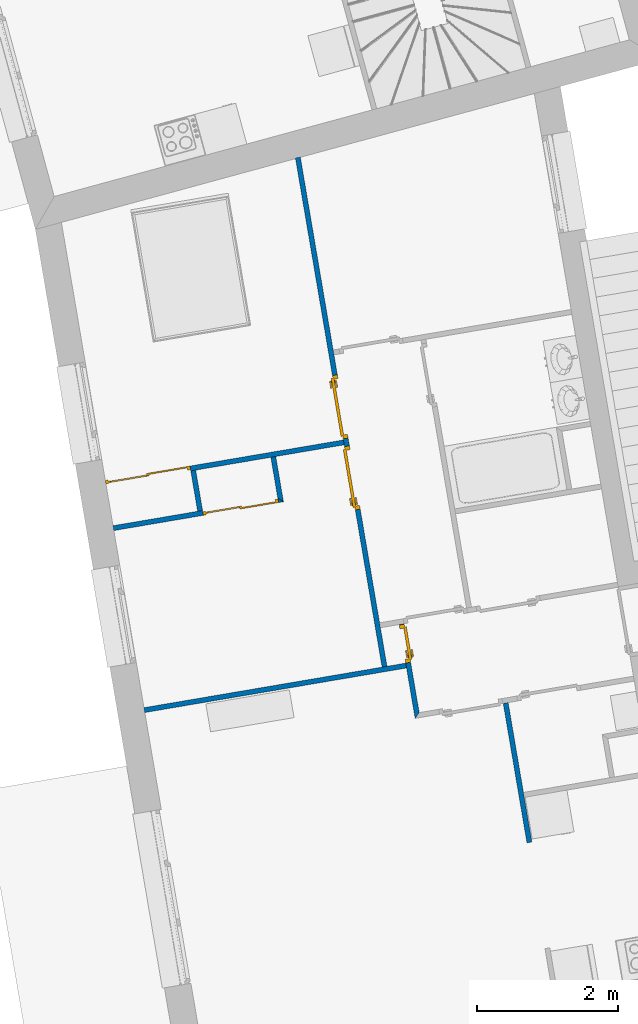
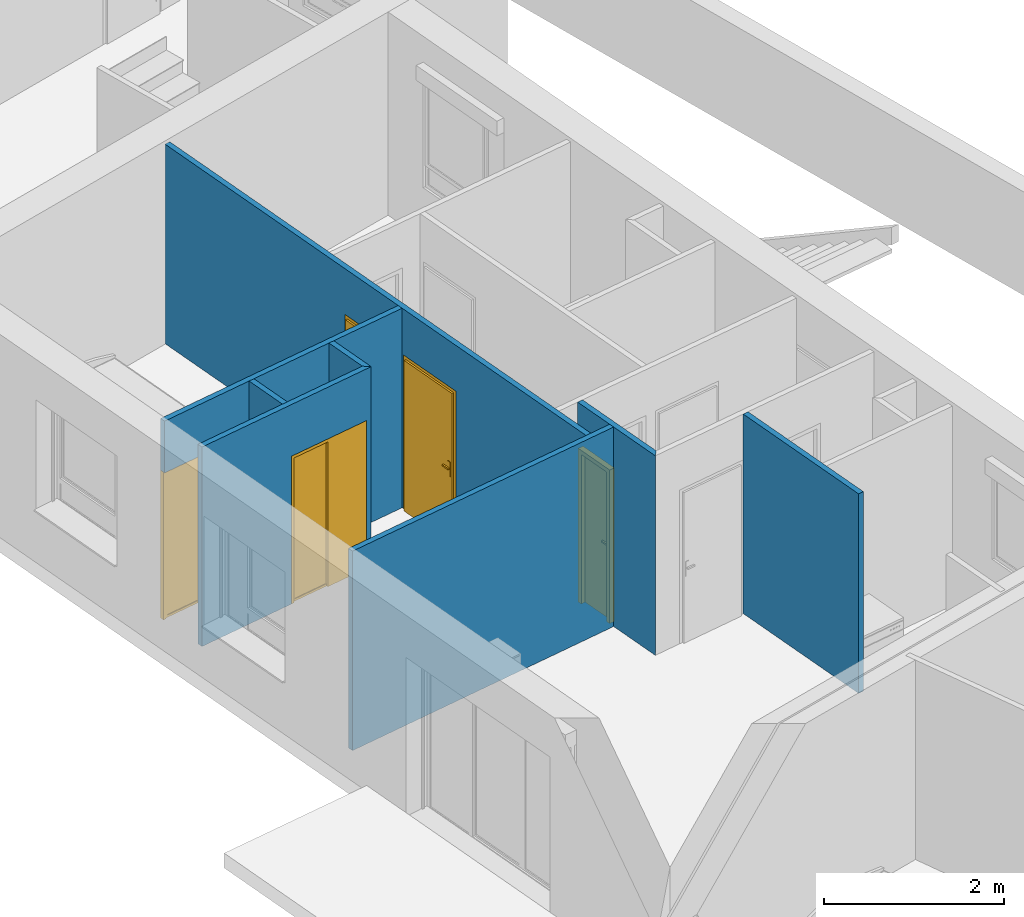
# One storey, part 87 of 195: 8 walls, 5 doors, 5 openings.
"""IFC2X3 building model written with IfcOpenShell, lengths in metres."""

from ifc_helpers import new_model, entity, si_unit, converted_unit, derived_unit, money_unit, direction, frame, origin_with_axes, origin_2d_with_axis, place, context, subcontext, project, spatial, polyline, rectangle, outline, extrude, open_shell, faceted_brep, surface_model, source, transform, mapped, material, layer, layer_set, layer_usage, type_object, element, fill, save


model = new_model("IFC2X3")

# Units and contexts
model_context = context("Model", 3, precision=1e-05, world=origin_with_axes(), true_north=direction((0.0, 1.0)))
body_context = subcontext(model_context, "Body", "Model", "MODEL_VIEW")
ifc_project = project(units=[si_unit("LENGTHUNIT", "METRE"), si_unit("AREAUNIT", "SQUARE_METRE"), si_unit("VOLUMEUNIT", "CUBIC_METRE"), converted_unit("PLANEANGLEUNIT", "DEGREE", entity("IfcPlaneAngleMeasure", 0.0174532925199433), si_unit("PLANEANGLEUNIT", "RADIAN"), dimensions=[0, 0, 0, 0, 0, 0, 0]), money_unit("CHF"), converted_unit("TIMEUNIT", "Year", entity("IfcTimeMeasure", 31557600.0), si_unit("TIMEUNIT", "SECOND"), dimensions=[0, 0, 1, 0, 0, 0, 0]), si_unit("MASSUNIT", "GRAM", prefix="KILO"), si_unit("THERMODYNAMICTEMPERATUREUNIT", "DEGREE_CELSIUS"), si_unit("LUMINOUSINTENSITYUNIT", "LUMEN"), si_unit("ENERGYUNIT", "JOULE", prefix="MEGA"), derived_unit("THERMALCONDUCTANCEUNIT", [(si_unit("POWERUNIT", "WATT"), 1), (si_unit("LENGTHUNIT", "METRE"), -1), (si_unit("THERMODYNAMICTEMPERATUREUNIT", "KELVIN"), -1)]), derived_unit("SPECIFICHEATCAPACITYUNIT", [(si_unit("ENERGYUNIT", "JOULE"), 1), (si_unit("MASSUNIT", "GRAM", prefix="KILO"), -1), (si_unit("THERMODYNAMICTEMPERATUREUNIT", "KELVIN"), -1)]), derived_unit("MASSDENSITYUNIT", [(si_unit("MASSUNIT", "GRAM", prefix="KILO"), 1), (si_unit("VOLUMEUNIT", "CUBIC_METRE"), -1)])], contexts=[model_context])

# Site, building, storey
site_placement = place(None, origin_with_axes())
site = spatial("IfcSite", under=ifc_project, at=site_placement, Name="Site", CompositionType="ELEMENT")
building_placement = place(site_placement, origin_with_axes())
building = spatial("IfcBuilding", under=site, at=building_placement, Name="Bâtiment", CompositionType="ELEMENT")
storey_placement = place(building_placement, origin_with_axes())
storey = spatial("IfcBuildingStorey", under=building, at=storey_placement, Name="rdc", CompositionType="ELEMENT", Elevation=0.0)

# Walls
ifc_material = material(Name="Hachure solide 268963992")
ifc_layer = layer(ifc_material, 0.07, ventilated="UNKNOWN")
ifc_layer_set = layer_set([ifc_layer], Name="Cloison 70 0826278243")
ifc_layer_usage_1 = layer_usage(ifc_layer_set, "AXIS2", "POSITIVE", 0.0)
wall_type = type_object("IfcWallType", Name="Cloison 70 0826278243 70", PredefinedType="NOTDEFINED")
wall_1_placement = place(storey_placement, frame((9585.078171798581, -1029.185577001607, 57.7), z_axis=(0.0, 0.0, 1.0), x_axis=(-0.985829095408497, -0.1677527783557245, 0.0)))
element("IfcWallStandardCase", 1, at=wall_1_placement, inside=storey, type_object=wall_type, material=ifc_layer_usage_1, Name="Mur-149", context=body_context, shape_type="SweptSolid", body=[
    extrude(outline(polyline([(0.0, 0.0), (3.761145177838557, 0.0), (3.761145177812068, 0.06999999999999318), (-1.001581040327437e-10, 0.0700000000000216), (0.0, 0.0)])), origin_with_axes(), (0.0, 0.0, 1.0), 2.7),
])
ifc_layer_usage_2 = layer_usage(ifc_layer_set, "AXIS2", "NEGATIVE", 0.0)
wall_2_placement = place(storey_placement, frame((9582.142737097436, -1027.104185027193, 57.7), z_axis=(0.0, 0.0, 1.0), x_axis=(-0.1677527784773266, 0.9858290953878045, 0.0)))
element("IfcWallStandardCase", 2, at=wall_2_placement, inside=storey, type_object=wall_type, material=ifc_layer_usage_2, Name="Mur-149", context=body_context, shape_type="SweptSolid", body=[
    extrude(outline(polyline([(0.0700000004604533, -0.06999999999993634), (0.6499928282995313, -0.07000000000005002), (0.6499928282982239, 0.0), (0.07000000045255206, 0.0), (0.0700000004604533, -0.06999999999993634)])), origin_with_axes(), (0.0, 0.0, 1.0), 2.7),
])

# Wall, opening, door
ifc_layer_usage_3 = layer_usage(ifc_layer_set, "AXIS2", "NEGATIVE", 0.0)
wall_3_placement = place(storey_placement, frame((9584.276142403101, -1026.081819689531, 57.7), z_axis=(0.0, 0.0, 1.0), x_axis=(-0.9858290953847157, -0.1677527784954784, 0.0)))
wall_3 = element("IfcWallStandardCase", 3, at=wall_3_placement, inside=storey, type_object=wall_type, material=ifc_layer_usage_3, Name="Mur-149", context=body_context, shape_type="SweptSolid", body=[
    extrude(outline(polyline([(0.07000000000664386, -0.06999999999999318), (3.491145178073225, -0.06999999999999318), (3.491145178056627, 0.0), (0.06999999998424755, 0.0), (0.07000000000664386, -0.06999999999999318)])), origin_with_axes(), (0.0, 0.0, 1.0), 2.7),
])
opening_1_placement = place(wall_3_placement, frame((2.882911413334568, 0.0, 0.0), z_axis=(0.0, 0.0, 1.0), x_axis=(1.0, 0.0, 0.0)))
opening_1 = element("IfcOpeningElement", 4, at=opening_1_placement, cuts=wall_3, Name="Por-358", context=body_context, shape_type="SweptSolid", body=[
    extrude(rectangle(XDim=1.216467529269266, YDim=2.0, at=origin_2d_with_axis()), frame((0.0, -0.0700000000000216, 1.0), z_axis=(0.0, 1.0, 0.0), x_axis=(1.0, 0.0, 0.0)), (0.0, 0.0, -1.0), 0.07),
    extrude(rectangle(XDim=1.216467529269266, YDim=2.0, at=origin_2d_with_axis()), frame((0.0, -0.07000000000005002, 1.0), z_axis=(0.0, -1.0, 0.0), x_axis=(1.0, 0.0, 0.0)), (0.0, 0.0, -1.0), 0.07),
])
door_style_1 = type_object("IfcDoorStyle", ConstructionType="NOTDEFINED", OperationType="NOTDEFINED", ParameterTakesPrecedence=False, Sizeable=False)
shared_shape_1 = source(origin_with_axes(), body_context, "Body", "SurfaceModel", [
    faceted_brep([(0.6082337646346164, 0.0, 0.0), (0.5682337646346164, 0.0, 0.0), (0.5682337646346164, 0.0, 1.96), (-0.5682337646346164, 0.0, 1.96), (-0.5682337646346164, 0.0, 0.0), (-0.6082337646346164, 0.0, 0.0), (-0.6082337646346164, 0.0, 2.0), (0.6082337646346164, 0.0, 2.0), (0.6082337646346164, -0.05, 0.0), (0.5682337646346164, -0.05, 0.0), (0.5682337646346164, -0.04000000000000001, 0.0), (0.5682337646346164, -0.04000000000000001, 1.96), (-0.5682337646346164, -0.03999999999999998, 1.96), (-0.5682337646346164, -0.03999999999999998, 0.0), (-0.5682337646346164, -0.04999999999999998, 0.0), (-0.6082337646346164, -0.04999999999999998, 0.0), (-0.6082337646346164, -0.04999999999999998, 2.0), (0.6082337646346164, -0.05, 2.0), (-0.5682337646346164, -0.04999999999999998, 1.96), (0.5682337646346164, -0.05, 1.96)], [[[0, 1, 2, 3, 4, 5, 6, 7]], [[0, 8, 9, 10, 1]], [[1, 10, 11, 2]], [[2, 11, 12, 3]], [[3, 12, 13, 4]], [[5, 4, 13, 14, 15]], [[16, 6, 5, 15]], [[17, 7, 6, 16]], [[8, 0, 7, 17]], [[9, 8, 17, 16, 15, 14, 18, 19]], [[10, 9, 19, 11]], [[11, 19, 18, 12]], [[12, 18, 14, 13]]]),
    faceted_brep([(-0.5682337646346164, -0.01999999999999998, 0.0), (0.01500000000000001, -0.02, 0.0), (0.01500000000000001, -0.03999999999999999, 0.0), (-0.5682337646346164, -0.03999999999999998, 0.0), (-0.5682337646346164, -0.01999999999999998, 1.96), (0.01500000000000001, -0.02, 1.96), (-0.5382337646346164, -0.01999999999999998, 0.03), (-0.0149999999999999, -0.02, 0.03), (-0.0149999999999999, -0.02, 1.93), (-0.5382337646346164, -0.01999999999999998, 1.93), (0.01500000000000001, -0.03999999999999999, 1.96), (-0.5682337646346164, -0.03999999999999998, 1.96), (-0.5382337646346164, -0.03999999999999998, 0.03), (-0.5382337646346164, -0.03999999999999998, 1.93), (-0.0149999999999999, -0.03999999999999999, 1.93), (-0.0149999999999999, -0.03999999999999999, 0.03)], [[[0, 1, 2, 3]], [[0, 4, 5, 1], [6, 7, 8, 9]], [[1, 5, 10, 2]], [[3, 2, 10, 11], [12, 13, 14, 15]], [[4, 0, 3, 11]], [[5, 4, 11, 10]], [[7, 6, 12, 15]], [[8, 7, 15, 14]], [[9, 8, 14, 13]], [[6, 9, 13, 12]]]),
    surface_model("IfcShellBasedSurfaceModel", [(-0.5382337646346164, -0.02999999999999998, 0.03), (-0.0149999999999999, -0.02999999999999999, 0.03), (-0.0149999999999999, -0.02999999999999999, 1.93), (-0.5382337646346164, -0.02999999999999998, 1.93)], [open_shell([[[0, 1, 2, 3]]])]),
    faceted_brep([(-0.01500000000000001, 0.0, 0.0), (0.5682337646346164, 0.0, 0.0), (0.5682337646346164, -0.02000000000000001, 0.0), (-0.01500000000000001, -0.02, 0.0), (-0.01500000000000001, 0.0, 1.96), (0.5682337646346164, 0.0, 1.96), (0.5682337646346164, -0.02000000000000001, 1.96), (-0.01500000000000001, -0.02, 1.96)], [[[0, 1, 2, 3]], [[0, 4, 5, 1]], [[1, 5, 6, 2]], [[3, 2, 6, 7]], [[4, 0, 3, 7]], [[5, 4, 7, 6]]]),
])
door_1_placement = place(opening_1_placement, frame((0.6082337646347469, 0.0, 0.0), z_axis=(0.0, 0.0, 1.0), x_axis=(-1.0, 0.0, 0.0)))
door_1 = element("IfcDoor", 5, at=door_1_placement, inside=storey, type_object=door_style_1, Name="Por-358", OverallHeight=2.0, OverallWidth=1.21647, context=body_context, shape_type="MappedRepresentation", body=[
    mapped(shared_shape_1, transform((0.6082337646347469, 0.06999999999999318, 0.0))),
])
fill(opening_1, door_1)

# Wall, openings, doors
ifc_layer_usage_4 = layer_usage(ifc_layer_set, "AXIS2", "NEGATIVE", 0.0)
wall_4_placement = place(storey_placement, frame((9583.584749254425, -1022.018724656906, 57.7), z_axis=(0.0, 0.0, 1.0), x_axis=(0.1677527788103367, -0.9858290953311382, 0.0)))
wall_4 = element("IfcWallStandardCase", 6, at=wall_4_placement, inside=storey, type_object=wall_type, material=ifc_layer_usage_4, Name="Mur-149", context=body_context, shape_type="SweptSolid", body=[
    extrude(outline(polyline([(0.0, -0.07000000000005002), (7.315817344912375, -0.07000000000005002), (7.315817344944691, 0.0), (0.0, 0.0), (0.0, -0.07000000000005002)])), origin_with_axes(), (0.0, 0.0, 1.0), 2.7),
])
opening_2_placement = place(wall_4_placement, frame((4.602404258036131, 0.0, 0.0), z_axis=(0.0, 0.0, 1.0), x_axis=(1.0, 0.0, 0.0)))
opening_2 = element("IfcOpeningElement", 7, at=opening_2_placement, cuts=wall_4, Name="Por-302", context=body_context, shape_type="SweptSolid", body=[
    extrude(rectangle(XDim=0.9099999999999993, YDim=2.079999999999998, at=origin_2d_with_axis()), frame((0.0, 0.06999999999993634, 1.039999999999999), z_axis=(0.0, -1.0, 0.0), x_axis=(-1.0, 0.0, 0.0)), (0.0, 0.0, 1.0), 0.14),
])
opening_3_placement = place(wall_4_placement, frame((3.58120269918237, 0.0, 0.0), z_axis=(0.0, 0.0, 1.0), x_axis=(1.0, 0.0, 0.0)))
opening_3 = element("IfcOpeningElement", 8, at=opening_3_placement, cuts=wall_4, Name="Por-301", context=body_context, shape_type="SweptSolid", body=[
    extrude(rectangle(XDim=0.9099999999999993, YDim=2.079999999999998, at=origin_2d_with_axis()), frame((0.0, 0.07000000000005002, 1.039999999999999), z_axis=(0.0, 1.0, 0.0), x_axis=(1.0, 0.0, 0.0)), (0.0, 0.0, -1.0), 0.14),
])
door_style_2 = type_object("IfcDoorStyle", Name="Porte_1v", ConstructionType="NOTDEFINED", OperationType="NOTDEFINED", ParameterTakesPrecedence=False, Sizeable=False)
shared_shape_2 = source(origin_with_axes(), body_context, "Body", "Brep", [
    faceted_brep([(0.455, 0.0, 0.0), (0.415, 0.0, 0.0), (0.415, 0.0, 2.04), (-0.415, 0.0, 2.04), (-0.415, 0.0, 0.0), (-0.455, 0.0, 0.0), (-0.455, 0.0, 2.08), (0.455, 0.0, 2.08), (0.455, -0.07, 0.0), (0.4, -0.07, 0.0), (0.4, -0.015, 0.0), (0.415, -0.015, 0.0), (0.415, -0.015, 2.04), (-0.415, -0.015, 2.04), (-0.415, -0.015, 0.0), (-0.4, -0.015, 0.0), (-0.4, -0.07, 0.0), (-0.455, -0.07, 0.0), (-0.455, -0.07, 2.08), (0.455, -0.07, 2.08), (-0.4, -0.07, 2.025), (0.4, -0.07, 2.025), (0.4, -0.015, 2.025), (-0.4, -0.015, 2.025)], [[[0, 1, 2, 3, 4, 5, 6, 7]], [[0, 8, 9, 10, 11, 1]], [[1, 11, 12, 2]], [[2, 12, 13, 3]], [[3, 13, 14, 4]], [[5, 4, 14, 15, 16, 17]], [[18, 6, 5, 17]], [[19, 7, 6, 18]], [[8, 0, 7, 19]], [[9, 8, 19, 18, 17, 16, 20, 21]], [[10, 9, 21, 22]], [[11, 10, 22, 23, 15, 14, 13, 12]], [[23, 20, 16, 15]], [[22, 21, 20, 23]]]),
    faceted_brep([(-0.35, -0.015, 0.9), (-0.39, -0.015, 0.9), (-0.39, -0.015, 1.1), (-0.35, -0.015, 1.1), (-0.35, -0.025, 0.9), (-0.39, -0.025, 0.9), (-0.39, -0.025, 1.1), (-0.35, -0.025, 1.1)], [[[0, 1, 2, 3]], [[1, 0, 4, 5]], [[2, 1, 5, 6]], [[3, 2, 6, 7]], [[0, 3, 7, 4]], [[5, 4, 7, 6]]]),
    faceted_brep([(-0.28, -0.025, 1.0), (-0.38, -0.025, 1.0), (-0.38, -0.025, 1.02), (-0.28, -0.025, 1.02), (-0.28, -0.045, 1.0), (-0.38, -0.045, 1.0), (-0.38, -0.045, 1.02), (-0.28, -0.045, 1.02)], [[[0, 1, 2, 3]], [[1, 0, 4, 5]], [[2, 1, 5, 6]], [[3, 2, 6, 7]], [[0, 3, 7, 4]], [[5, 4, 7, 6]]]),
    faceted_brep([(-0.35, 0.035, 0.9), (-0.39, 0.035, 0.9), (-0.39, 0.035, 1.1), (-0.35, 0.035, 1.1), (-0.35, 0.025, 0.9), (-0.39, 0.025, 0.9), (-0.39, 0.025, 1.1), (-0.35, 0.025, 1.1)], [[[0, 1, 2, 3]], [[1, 0, 4, 5]], [[2, 1, 5, 6]], [[3, 2, 6, 7]], [[0, 3, 7, 4]], [[5, 4, 7, 6]]]),
    faceted_brep([(-0.28, 0.05500000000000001, 1.0), (-0.38, 0.05500000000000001, 1.0), (-0.38, 0.05500000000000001, 1.02), (-0.28, 0.05500000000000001, 1.02), (-0.28, 0.035, 1.0), (-0.38, 0.035, 1.0), (-0.38, 0.035, 1.02), (-0.28, 0.035, 1.02)], [[[0, 1, 2, 3]], [[1, 0, 4, 5]], [[2, 1, 5, 6]], [[3, 2, 6, 7]], [[0, 3, 7, 4]], [[5, 4, 7, 6]]]),
    faceted_brep([(-0.415, 0.025, 0.0), (0.415, 0.025, 0.0), (0.415, -0.015, 0.0), (-0.415, -0.015, 0.0), (-0.415, 0.025, 2.04), (0.415, 0.025, 2.04), (0.415, -0.015, 2.04), (-0.415, -0.015, 2.04)], [[[0, 1, 2, 3]], [[0, 4, 5, 1]], [[1, 5, 6, 2]], [[3, 2, 6, 7]], [[4, 0, 3, 7]], [[5, 4, 7, 6]]]),
])
door_2_placement = place(opening_2_placement, frame((0.4150000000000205, 0.0, 0.0), z_axis=(0.0, 0.0, 1.0), x_axis=(-1.0, 0.0, 0.0)))
door_2 = element("IfcDoor", 9, at=door_2_placement, inside=storey, type_object=door_style_2, Name="Por-302", OverallHeight=2.04, OverallWidth=0.83, context=body_context, shape_type="MappedRepresentation", body=[
    mapped(shared_shape_2, transform((0.4149999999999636, 0.06999999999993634, 0.0))),
])
fill(opening_2, door_2)
shared_shape_3 = source(origin_with_axes(), body_context, "Body", "Brep", [
    faceted_brep([(-0.455, 0.0, 0.0), (-0.455, 0.0, 2.08), (0.455, 0.0, 2.08), (0.455, 0.0, 0.0), (0.415, 0.0, 0.0), (0.415, 0.0, 2.04), (-0.415, 0.0, 2.04), (-0.415, 0.0, 0.0), (-0.455, -0.07, 0.0), (-0.455, -0.07, 2.08), (0.455, -0.07, 2.08), (0.455, -0.07, 0.0), (0.4, -0.07, 0.0), (0.4, -0.015, 0.0), (0.415, -0.015, 0.0), (0.415, -0.015, 2.04), (-0.415, -0.015, 2.04), (-0.415, -0.015, 0.0), (-0.4, -0.015, 0.0), (-0.4, -0.07, 0.0), (-0.4, -0.07, 2.025), (0.4, -0.07, 2.025), (0.4, -0.015, 2.025), (-0.4, -0.015, 2.025)], [[[0, 1, 2, 3, 4, 5, 6, 7]], [[8, 9, 1, 0]], [[9, 10, 2, 1]], [[10, 11, 3, 2]], [[3, 11, 12, 13, 14, 4]], [[5, 4, 14, 15]], [[6, 5, 15, 16]], [[7, 6, 16, 17]], [[0, 7, 17, 18, 19, 8]], [[19, 20, 21, 12, 11, 10, 9, 8]], [[22, 13, 12, 21]], [[17, 16, 15, 14, 13, 22, 23, 18]], [[18, 23, 20, 19]], [[23, 22, 21, 20]]]),
    faceted_brep([(0.35, -0.015, 0.9), (0.35, -0.015, 1.1), (0.39, -0.015, 1.1), (0.39, -0.015, 0.9), (0.35, -0.025, 0.9), (0.35, -0.025, 1.1), (0.39, -0.025, 1.1), (0.39, -0.025, 0.9)], [[[0, 1, 2, 3]], [[0, 4, 5, 1]], [[1, 5, 6, 2]], [[2, 6, 7, 3]], [[3, 7, 4, 0]], [[7, 6, 5, 4]]]),
    faceted_brep([(0.28, -0.025, 1.0), (0.28, -0.025, 1.02), (0.38, -0.025, 1.02), (0.38, -0.025, 1.0), (0.28, -0.045, 1.0), (0.28, -0.045, 1.02), (0.38, -0.045, 1.02), (0.38, -0.045, 1.0)], [[[0, 1, 2, 3]], [[0, 4, 5, 1]], [[1, 5, 6, 2]], [[2, 6, 7, 3]], [[3, 7, 4, 0]], [[7, 6, 5, 4]]]),
    faceted_brep([(0.35, 0.035, 0.9), (0.35, 0.035, 1.1), (0.39, 0.035, 1.1), (0.39, 0.035, 0.9), (0.35, 0.025, 0.9), (0.35, 0.025, 1.1), (0.39, 0.025, 1.1), (0.39, 0.025, 0.9)], [[[0, 1, 2, 3]], [[0, 4, 5, 1]], [[1, 5, 6, 2]], [[2, 6, 7, 3]], [[3, 7, 4, 0]], [[7, 6, 5, 4]]]),
    faceted_brep([(0.28, 0.05500000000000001, 1.0), (0.28, 0.05500000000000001, 1.02), (0.38, 0.05500000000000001, 1.02), (0.38, 0.05500000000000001, 1.0), (0.28, 0.035, 1.0), (0.28, 0.035, 1.02), (0.38, 0.035, 1.02), (0.38, 0.035, 1.0)], [[[0, 1, 2, 3]], [[0, 4, 5, 1]], [[1, 5, 6, 2]], [[2, 6, 7, 3]], [[3, 7, 4, 0]], [[7, 6, 5, 4]]]),
    faceted_brep([(0.415, 0.025, 0.0), (0.415, -0.015, 0.0), (-0.415, -0.015, 0.0), (-0.415, 0.025, 0.0), (0.415, 0.025, 2.04), (0.415, -0.015, 2.04), (-0.415, -0.015, 2.04), (-0.415, 0.025, 2.04)], [[[0, 1, 2, 3]], [[4, 5, 1, 0]], [[1, 5, 6, 2]], [[3, 2, 6, 7]], [[0, 3, 7, 4]], [[7, 6, 5, 4]]]),
])
door_3_placement = place(opening_3_placement, frame((0.4150000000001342, 0.0, 0.0), z_axis=(0.0, 0.0, 1.0), x_axis=(-1.0, 0.0, 0.0)))
door_3 = element("IfcDoor", 10, at=door_3_placement, inside=storey, type_object=door_style_2, Name="Por-301", OverallHeight=2.04, OverallWidth=0.83, context=body_context, shape_type="MappedRepresentation", body=[
    mapped(shared_shape_3, transform((0.4150000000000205, 0.07000000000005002, 0.0))),
])
fill(opening_3, door_3)

# Wall
ifc_layer_usage_5 = layer_usage(ifc_layer_set, "AXIS2", "NEGATIVE", 0.0)
wall_5_placement = place(storey_placement, frame((9583.276806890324, -1026.911206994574, 57.7), z_axis=(0.0, 0.0, 1.0), x_axis=(-0.1677527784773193, 0.9858290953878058, 0.0)))
element("IfcWallStandardCase", 11, at=wall_5_placement, inside=storey, type_object=wall_type, material=ifc_layer_usage_5, Name="Mur-149", context=body_context, shape_type="SweptSolid", body=[
    extrude(outline(polyline([(0.0, -0.07000000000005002), (0.6499928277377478, -0.07000000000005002), (0.6499928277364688, 0.0), (0.06999999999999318, 0.0), (0.0, -0.07000000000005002)])), origin_with_axes(), (0.0, 0.0, 1.0), 2.7),
])

# Wall, opening, door
ifc_layer_usage_6 = layer_usage(ifc_layer_set, "AXIS2", "NEGATIVE", 0.0)
wall_6_placement = place(storey_placement, frame((9583.276806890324, -1026.911206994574, 57.7), z_axis=(0.0, 0.0, 1.0), x_axis=(-0.9858290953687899, -0.1677527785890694, 0.0)))
wall_6 = element("IfcWallStandardCase", 12, at=wall_6_placement, inside=storey, type_object=wall_type, material=ifc_layer_usage_6, Name="Mur-149", context=body_context, shape_type="SweptSolid", body=[
    extrude(outline(polyline([(0.0, -0.06999999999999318), (2.366839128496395, -0.06999999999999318), (2.36683912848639, 0.0), (-0.07000000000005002, 0.0), (0.0, -0.06999999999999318)])), origin_with_axes(), (0.0, 0.0, 1.0), 2.7),
])
opening_4_placement = place(wall_6_placement, frame((0.5401857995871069, 0.0, 0.0), z_axis=(0.0, 0.0, 1.0), x_axis=(1.0, 0.0, 0.0)))
opening_4 = element("IfcOpeningElement", 13, at=opening_4_placement, cuts=wall_6, Name="Por-357", context=body_context, shape_type="SweptSolid", body=[
    extrude(rectangle(XDim=1.080371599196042, YDim=2.0, at=origin_2d_with_axis()), frame((0.0, 0.0, 1.0), z_axis=(0.0, -1.0, 0.0), x_axis=(1.0, 0.0, 0.0)), (0.0, 0.0, -1.0), 0.07),
    extrude(rectangle(XDim=1.080371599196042, YDim=2.0, at=origin_2d_with_axis()), frame((0.0, 0.0, 1.0), z_axis=(0.0, 1.0, 0.0), x_axis=(1.0, 0.0, 0.0)), (0.0, 0.0, -1.0), 0.07),
])
shared_shape_4 = source(origin_with_axes(), body_context, "Body", "SurfaceModel", [
    faceted_brep([(-0.5401857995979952, 0.0, 0.0), (-0.5401857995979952, 0.0, 2.0), (0.5401857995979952, 0.0, 2.0), (0.5401857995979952, 0.0, 0.0), (0.5001857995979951, 0.0, 0.0), (0.5001857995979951, 0.0, 1.96), (-0.5001857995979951, 0.0, 1.96), (-0.5001857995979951, 0.0, 0.0), (-0.5401857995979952, -0.05, 0.0), (-0.5401857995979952, -0.05, 2.0), (0.5401857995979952, -0.05, 2.0), (0.5401857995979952, -0.05, 0.0), (0.5001857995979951, -0.05, 0.0), (0.5001857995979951, -0.04, 0.0), (0.5001857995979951, -0.04, 1.96), (-0.5001857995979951, -0.04, 1.96), (-0.5001857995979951, -0.04, 0.0), (-0.5001857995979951, -0.05, 0.0), (-0.5001857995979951, -0.05, 1.96), (0.5001857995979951, -0.05, 1.96)], [[[0, 1, 2, 3, 4, 5, 6, 7]], [[8, 9, 1, 0]], [[9, 10, 2, 1]], [[10, 11, 3, 2]], [[3, 11, 12, 13, 4]], [[5, 4, 13, 14]], [[6, 5, 14, 15]], [[7, 6, 15, 16]], [[0, 7, 16, 17, 8]], [[17, 18, 19, 12, 11, 10, 9, 8]], [[14, 13, 12, 19]], [[15, 14, 19, 18]], [[16, 15, 18, 17]]]),
    faceted_brep([(0.5001857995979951, -0.02, 0.0), (0.5001857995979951, -0.04, 0.0), (-0.01500000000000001, -0.04, 0.0), (-0.01500000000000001, -0.02, 0.0), (0.5001857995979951, -0.02, 1.96), (0.5001857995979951, -0.04, 1.96), (-0.01500000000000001, -0.04, 1.96), (0.4701857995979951, -0.04, 0.03), (0.01500000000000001, -0.04, 0.03), (0.01500000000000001, -0.04, 1.93), (0.4701857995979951, -0.04, 1.93), (-0.01500000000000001, -0.02, 1.96), (0.4701857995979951, -0.02, 0.03), (0.4701857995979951, -0.02, 1.93), (0.01500000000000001, -0.02, 1.93), (0.01500000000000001, -0.02, 0.03)], [[[0, 1, 2, 3]], [[4, 5, 1, 0]], [[1, 5, 6, 2], [7, 8, 9, 10]], [[3, 2, 6, 11]], [[0, 3, 11, 4], [12, 13, 14, 15]], [[11, 6, 5, 4]], [[15, 8, 7, 12]], [[14, 9, 8, 15]], [[13, 10, 9, 14]], [[12, 7, 10, 13]]]),
    surface_model("IfcShellBasedSurfaceModel", [(0.4701857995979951, -0.03, 0.03), (0.4701857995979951, -0.03, 1.93), (0.01499999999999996, -0.03, 1.93), (0.01499999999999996, -0.03, 0.03)], [open_shell([[[0, 1, 2, 3]]])]),
    faceted_brep([(0.01500000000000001, 0.0, 0.0), (0.01500000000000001, -0.02, 0.0), (-0.5001857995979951, -0.02, 0.0), (-0.5001857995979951, 0.0, 0.0), (0.01500000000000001, 0.0, 1.96), (0.01500000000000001, -0.02, 1.96), (-0.5001857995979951, -0.02, 1.96), (-0.5001857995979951, 0.0, 1.96)], [[[0, 1, 2, 3]], [[4, 5, 1, 0]], [[1, 5, 6, 2]], [[3, 2, 6, 7]], [[0, 3, 7, 4]], [[7, 6, 5, 4]]]),
])
door_4_placement = place(opening_4_placement, frame((-0.5401857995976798, 0.0, 0.0), z_axis=(0.0, 0.0, 1.0), x_axis=(1.0, 0.0, 0.0)))
door_4 = element("IfcDoor", 14, at=door_4_placement, inside=storey, type_object=door_style_1, Name="Por-357", OverallHeight=2.0, OverallWidth=1.08037, context=body_context, shape_type="MappedRepresentation", body=[
    mapped(shared_shape_4, transform((0.5401857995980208, 0.0, 0.0))),
])
fill(opening_4, door_4)

# Wall
ifc_layer_usage_7 = layer_usage(ifc_layer_set, "AXIS2", "NEGATIVE", 0.0)
wall_7_placement = place(storey_placement, frame((9586.528077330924, -1029.743853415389, 57.7), z_axis=(0.0, 0.0, 1.0), x_axis=(0.1677527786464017, -0.9858290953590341, 0.0)))
element("IfcWallStandardCase", 15, at=wall_7_placement, inside=storey, type_object=wall_type, material=ifc_layer_usage_7, Name="Mur-149", context=body_context, shape_type="SweptSolid", body=[
    extrude(outline(polyline([(-1.003769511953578e-09, -0.06999999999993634), (2.003969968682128, -0.07000000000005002), (2.003969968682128, 0.0), (-9.982272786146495e-10, 0.0), (-1.003769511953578e-09, -0.06999999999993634)])), origin_with_axes(), (0.0, 0.0, 1.0), 2.7),
])

# Wall, opening, door
ifc_layer_usage_8 = layer_usage(ifc_layer_set, "AXIS2", "NEGATIVE", 0.0)
wall_8_placement = place(storey_placement, frame((9585.211298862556, -1029.967921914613, 57.7), z_axis=(0.0, 0.0, 1.0), x_axis=(-0.1677527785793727, 0.98582909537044, 0.0)))
wall_8 = element("IfcWallStandardCase", 16, at=wall_8_placement, inside=storey, type_object=wall_type, material=ifc_layer_usage_8, Name="Mur-149", context=body_context, shape_type="SweptSolid", body=[
    extrude(outline(polyline([(0.07000000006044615, -0.07000000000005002), (1.348501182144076, -0.07000000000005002), (1.348501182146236, 0.0), (0.0, 0.0), (0.07000000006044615, -0.07000000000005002)])), origin_with_axes(), (0.0, 0.0, 1.0), 2.7),
])
opening_5_placement = place(wall_8_placement, frame((1.067283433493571, 0.0, 0.0), z_axis=(0.0, 0.0, 1.0), x_axis=(1.0, 0.0, 0.0)))
opening_5 = element("IfcOpeningElement", 17, at=opening_5_placement, cuts=wall_8, Name="Por-320", context=body_context, shape_type="SweptSolid", body=[
    extrude(rectangle(XDim=0.547405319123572, YDim=2.079999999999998, at=origin_2d_with_axis()), frame((-2.722657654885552e-09, 0.07000000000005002, 1.039999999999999), z_axis=(0.0, 1.0, 0.0), x_axis=(1.0, 0.0, 0.0)), (0.0, 0.0, -1.0), 0.14),
])
shared_shape_5 = source(origin_with_axes(), body_context, "Body", "Brep", [
    faceted_brep([(-0.2737026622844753, 0.0, 0.0), (-0.2737026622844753, 0.0, 2.08), (0.2737026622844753, 0.0, 2.08), (0.2737026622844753, 0.0, 0.0), (0.2337026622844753, 0.0, 0.0), (0.2337026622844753, 0.0, 2.04), (-0.2337026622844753, 0.0, 2.04), (-0.2337026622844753, 0.0, 0.0), (-0.2737026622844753, -0.07, 0.0), (-0.2737026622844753, -0.07, 2.08), (0.2737026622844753, -0.07, 2.08), (0.2737026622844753, -0.07, 0.0), (0.2187026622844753, -0.07, 0.0), (0.2187026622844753, -0.015, 0.0), (0.2337026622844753, -0.015, 0.0), (0.2337026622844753, -0.015, 2.04), (-0.2337026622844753, -0.015, 2.04), (-0.2337026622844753, -0.015, 0.0), (-0.2187026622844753, -0.015, 0.0), (-0.2187026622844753, -0.07, 0.0), (-0.2187026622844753, -0.07, 2.025), (0.2187026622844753, -0.07, 2.025), (0.2187026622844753, -0.015, 2.025), (-0.2187026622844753, -0.015, 2.025)], [[[0, 1, 2, 3, 4, 5, 6, 7]], [[8, 9, 1, 0]], [[9, 10, 2, 1]], [[10, 11, 3, 2]], [[3, 11, 12, 13, 14, 4]], [[5, 4, 14, 15]], [[6, 5, 15, 16]], [[7, 6, 16, 17]], [[0, 7, 17, 18, 19, 8]], [[19, 20, 21, 12, 11, 10, 9, 8]], [[22, 13, 12, 21]], [[17, 16, 15, 14, 13, 22, 23, 18]], [[18, 23, 20, 19]], [[23, 22, 21, 20]]]),
    faceted_brep([(0.1687026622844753, -0.015, 0.9), (0.1687026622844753, -0.015, 1.1), (0.2087026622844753, -0.015, 1.1), (0.2087026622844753, -0.015, 0.9), (0.1687026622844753, -0.025, 0.9), (0.1687026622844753, -0.025, 1.1), (0.2087026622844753, -0.025, 1.1), (0.2087026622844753, -0.025, 0.9)], [[[0, 1, 2, 3]], [[0, 4, 5, 1]], [[1, 5, 6, 2]], [[2, 6, 7, 3]], [[3, 7, 4, 0]], [[7, 6, 5, 4]]]),
    faceted_brep([(0.0987026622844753, -0.025, 1.0), (0.0987026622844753, -0.025, 1.02), (0.1987026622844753, -0.025, 1.02), (0.1987026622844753, -0.025, 1.0), (0.0987026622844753, -0.045, 1.0), (0.0987026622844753, -0.045, 1.02), (0.1987026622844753, -0.045, 1.02), (0.1987026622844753, -0.045, 1.0)], [[[0, 1, 2, 3]], [[0, 4, 5, 1]], [[1, 5, 6, 2]], [[2, 6, 7, 3]], [[3, 7, 4, 0]], [[7, 6, 5, 4]]]),
    faceted_brep([(0.1687026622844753, 0.035, 0.9), (0.1687026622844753, 0.035, 1.1), (0.2087026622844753, 0.035, 1.1), (0.2087026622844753, 0.035, 0.9), (0.1687026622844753, 0.025, 0.9), (0.1687026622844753, 0.025, 1.1), (0.2087026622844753, 0.025, 1.1), (0.2087026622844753, 0.025, 0.9)], [[[0, 1, 2, 3]], [[0, 4, 5, 1]], [[1, 5, 6, 2]], [[2, 6, 7, 3]], [[3, 7, 4, 0]], [[7, 6, 5, 4]]]),
    faceted_brep([(0.0987026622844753, 0.05500000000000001, 1.0), (0.0987026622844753, 0.05500000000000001, 1.02), (0.1987026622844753, 0.05500000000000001, 1.02), (0.1987026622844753, 0.05500000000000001, 1.0), (0.0987026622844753, 0.035, 1.0), (0.0987026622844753, 0.035, 1.02), (0.1987026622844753, 0.035, 1.02), (0.1987026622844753, 0.035, 1.0)], [[[0, 1, 2, 3]], [[0, 4, 5, 1]], [[1, 5, 6, 2]], [[2, 6, 7, 3]], [[3, 7, 4, 0]], [[7, 6, 5, 4]]]),
    faceted_brep([(0.2337026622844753, 0.025, 0.0), (0.2337026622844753, -0.015, 0.0), (-0.2337026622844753, -0.015, 0.0), (-0.2337026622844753, 0.025, 0.0), (0.2337026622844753, 0.025, 2.04), (0.2337026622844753, -0.015, 2.04), (-0.2337026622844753, -0.015, 2.04), (-0.2337026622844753, 0.025, 2.04)], [[[0, 1, 2, 3]], [[4, 5, 1, 0]], [[1, 5, 6, 2]], [[3, 2, 6, 7]], [[0, 3, 7, 4]], [[7, 6, 5, 4]]]),
])
door_5_placement = place(opening_5_placement, frame((0.2337026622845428, 0.0, 0.0), z_axis=(0.0, 0.0, 1.0), x_axis=(-1.0, 0.0, 0.0)))
door_5 = element("IfcDoor", 18, at=door_5_placement, inside=storey, type_object=door_style_2, Name="Por-320", OverallHeight=2.04, OverallWidth=0.467405, context=body_context, shape_type="MappedRepresentation", body=[
    mapped(shared_shape_5, transform((0.2337026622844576, 0.07000000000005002, 0.0))),
])
fill(opening_5, door_5)

save(model, "model.ifc")
